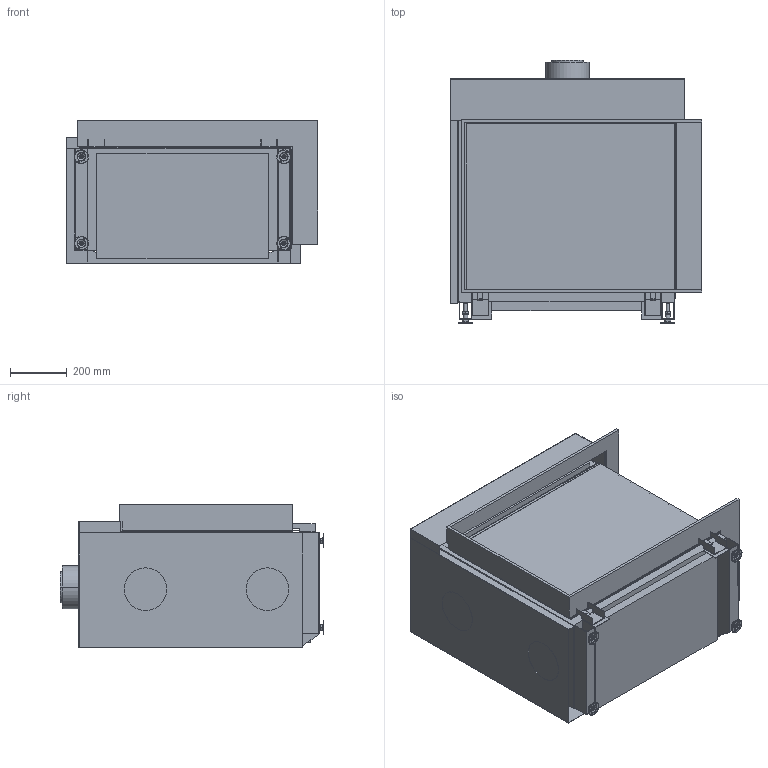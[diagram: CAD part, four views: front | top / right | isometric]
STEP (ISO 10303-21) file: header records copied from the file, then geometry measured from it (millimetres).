
FILE_DESCRIPTION(('Creo Elements/Direct Modeling STEP Export'),'2;1');
FILE_NAME('AVENUE MF 700-60 GHE 2SR.stp','2019-05-13T10:48:14',(''),(''),'PTC Creo Elements/Direct Modeling STEP processor for AP214 (Solid Model)','PTC Creo Elements/Direct Modeling 19.0B 21-Mar-2015 (C) Parametric Technology GmbH','');
FILE_SCHEMA(('AUTOMOTIVE_DESIGN { 1 0 10303 214 1 1 1 1 }'));
Length unit declared in the file: millimetre
Products named in the file (14): FinishingFrame; Options; AVN_700-60_2SR_Base; AVN_700-60_2SR_Galva; Glass; Support_side.1.1.1.1.1; Adjustable_floorsupport_M12.1.1; Hexagon_nut_M12_Din934.1.1; FIXED_PART.1; MOVING_PART.1; TUBTARA_M12.1.1.1; Foot.3; AVN_700-60_2SR; AVENUE_MF_700-60_GHE_2SR
Assembly tree (17 placements, depth 5):
  AVENUE_MF_700-60_GHE_2SR
    AVN_700-60_2SR
      Support_side.1.1.1.1.1  x2
      Foot.3  x4
        TUBTARA_M12.1.1.1
          MOVING_PART.1
          FIXED_PART.1
        Hexagon_nut_M12_Din934.1.1
        Adjustable_floorsupport_M12.1.1
      Glass
      AVN_700-60_2SR_Galva
      AVN_700-60_2SR_Base
    Options
      FinishingFrame
Bounding box: 887.9 x 930 x 504 mm (x, y, z)
Volume: 59593993.3 mm3; surface area: 8784423.2 mm2
Topology: 22 solids, 22 shells, 729 faces, 1777 edges, 1129 vertices
Faces by surface type: plane 479, cylinder 130, cone 104, torus 8, sphere 8
Entity records: 11755 total; most frequent: CARTESIAN_POINT 2957, ORIENTED_EDGE 1854, DIRECTION 1554, EDGE_CURVE 927, VECTOR 698, LINE 698, VERTEX_POINT 601, AXIS2_PLACEMENT_3D 428
